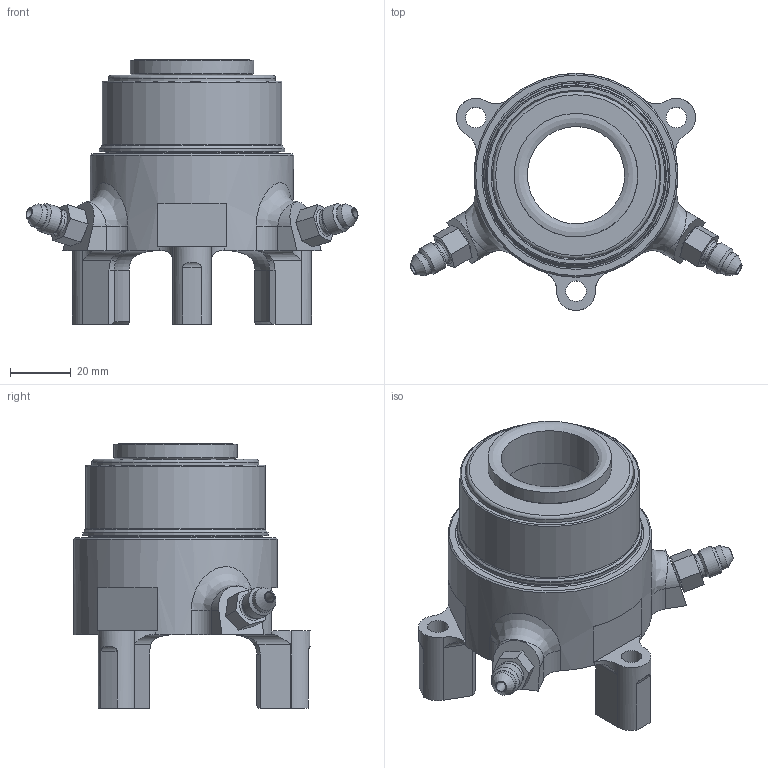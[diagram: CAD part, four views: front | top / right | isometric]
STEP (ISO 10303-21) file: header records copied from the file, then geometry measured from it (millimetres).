
FILE_DESCRIPTION(/* description */ ('Unknown'),/* implementation_level */ '2;1');
FILE_NAME(/* name */ '60-3360 ASSEMBLY',/* time_stamp */ '2020-04-28T13:27:38-07:00',/* author */ ('Unknown'),/* organization */ ('Unknown'),/* preprocessor_version */ 'ST-DEVELOPER v16.7',/* originating_system */ 'DEX',/* authorisation */ $);
FILE_SCHEMA (('AUTOMOTIVE_DESIGN {1 0 10303 214 3 1 1}'));
Length unit declared in the file: millimetre
Products named in the file (1): 60-3360 ASSEMBLY
Bounding box: 109.26 x 77.98 x 86.97 mm (x, y, z)
Volume: 128509.5 mm3; surface area: 40808.5 mm2
Topology: 2 solids, 3 shells, 178 faces, 443 edges, 280 vertices
Faces by surface type: plane 61, cylinder 53, torus 27, cone 23, bspline 14
Full cylindrical faces by diameter (mm): 3.175 x2, 6.746 x3, 7.734 x2, 7.925 x4, 9.525 x2, 32.004 x1, 35.001 x2, 38.1 x1, 40.64 x1, 47.714 x1, 54.991 x1, 54.997 x1, 57.061 x1, 59.182 x1, 60.96 x1, 61.925 x1, 67.056 x1
Entity records: 6696 total; most frequent: CARTESIAN_POINT 1693, DIRECTION 789, ORIENTED_EDGE 716, EDGE_CURVE 358, AXIS2_PLACEMENT_3D 326, FACE_BOUND 266, EDGE_LOOP 264, VERTEX_POINT 262
